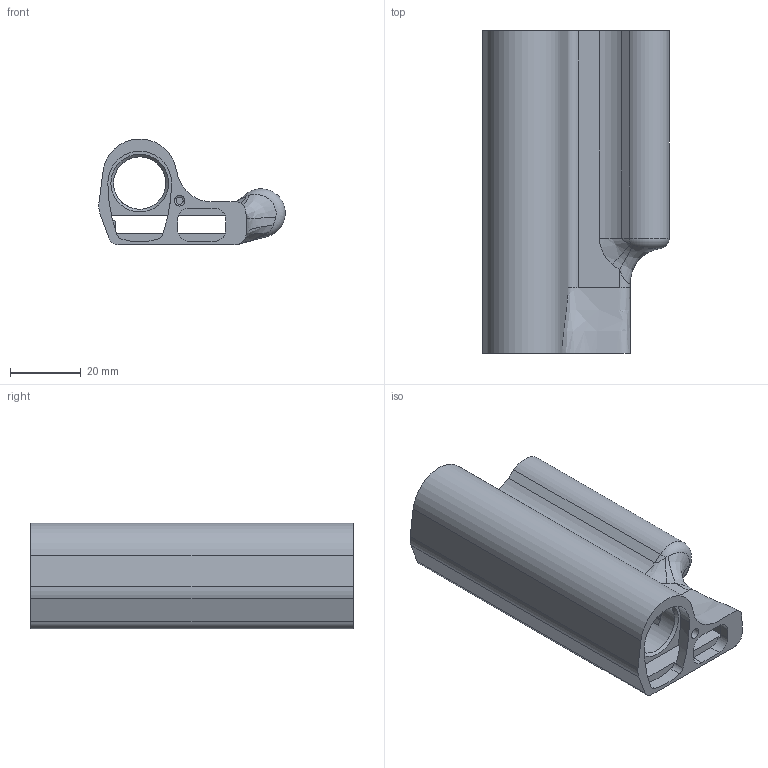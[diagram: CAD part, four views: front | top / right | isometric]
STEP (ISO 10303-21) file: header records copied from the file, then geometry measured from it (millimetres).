
FILE_DESCRIPTION(/* description */ (''),/* implementation_level */ '2;1');
FILE_NAME(/* name */ 'Housing.step',/* time_stamp */ '2024-08-02T09:09:15-07:00',/* author */ (''),/* organization */ (''),/* preprocessor_version */ 'ST-DEVELOPER v20',/* originating_system */ 'Autodesk Translation Framework v13.14.0.145',/* authorisation */ '');
FILE_SCHEMA (('AUTOMOTIVE_DESIGN { 1 0 10303 214 3 1 1 }'));
Length unit declared in the file: millimetre
Products named in the file (1): Housing
Bounding box: 52.68 x 91 x 29.92 mm (x, y, z)
Volume: 35156.6 mm3; surface area: 28061.8 mm2
Topology: 1 solids, 1 shells, 195 faces, 562 edges, 366 vertices
Faces by surface type: plane 90, cylinder 79, cone 13, bspline 7, torus 6
Full cylindrical faces by diameter (mm): 3 x1, 11 x1, 14.8 x1, 29 x1, 32.1 x1
Entity records: 6965 total; most frequent: CARTESIAN_POINT 1715, ORIENTED_EDGE 1122, DIRECTION 1099, EDGE_CURVE 561, AXIS2_PLACEMENT_3D 396, VERTEX_POINT 366, LINE 307, VECTOR 307
